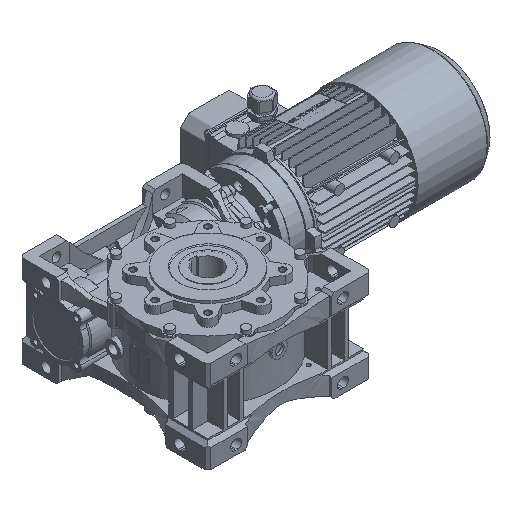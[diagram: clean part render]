
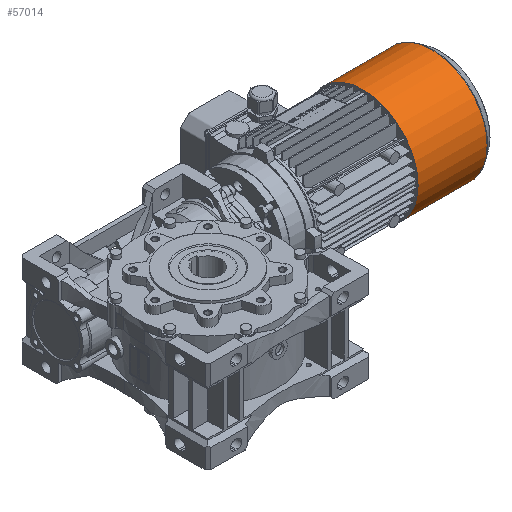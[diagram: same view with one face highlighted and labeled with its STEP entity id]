
A CAD part, isometric view. The second image highlights one B-rep face of the part: STEP entity #57014.
In plain terms, the highlighted cylindrical face has radius 86.45 mm (diameter 172.9 mm), a full revolution.
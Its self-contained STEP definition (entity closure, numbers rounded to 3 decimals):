
#19200=ORIENTED_EDGE('',*,*,#33001,.F.);
#19201=ORIENTED_EDGE('',*,*,#33000,.T.);
#33000=EDGE_CURVE('',#40483,#40483,#45384,.T.);
#33001=EDGE_CURVE('',#40484,#40484,#45385,.T.);
#40483=VERTEX_POINT('',#108697);
#40484=VERTEX_POINT('',#108700);
#45384=CIRCLE('',#80141,86.45);
#45385=CIRCLE('',#80143,86.45);
#48346=EDGE_LOOP('',(#19200));
#48347=EDGE_LOOP('',(#19201));
#52027=FACE_BOUND('',#48346,.T.);
#52028=FACE_BOUND('',#48347,.T.);
#55089=CYLINDRICAL_SURFACE('',#80142,86.45);
#57014=ADVANCED_FACE('',(#52027,#52028),#55089,.T.);
#80141=AXIS2_PLACEMENT_3D('',#108696,#91122,#91123);
#80142=AXIS2_PLACEMENT_3D('',#108698,#91124,#91125);
#80143=AXIS2_PLACEMENT_3D('',#108699,#91126,#91127);
#91122=DIRECTION('',(1.,0.,0.));
#91123=DIRECTION('',(0.,0.,-1.));
#91124=DIRECTION('',(1.,0.,0.));
#91125=DIRECTION('',(0.,0.,-1.));
#91126=DIRECTION('',(1.,0.,0.));
#91127=DIRECTION('',(0.,0.,-1.));
#108696=CARTESIAN_POINT('',(0.,0.,0.));
#108697=CARTESIAN_POINT('',(0.,0.,-86.45));
#108698=CARTESIAN_POINT('',(122.,0.,0.));
#108699=CARTESIAN_POINT('',(107.873,0.,0.));
#108700=CARTESIAN_POINT('',(107.873,0.,-86.45));
